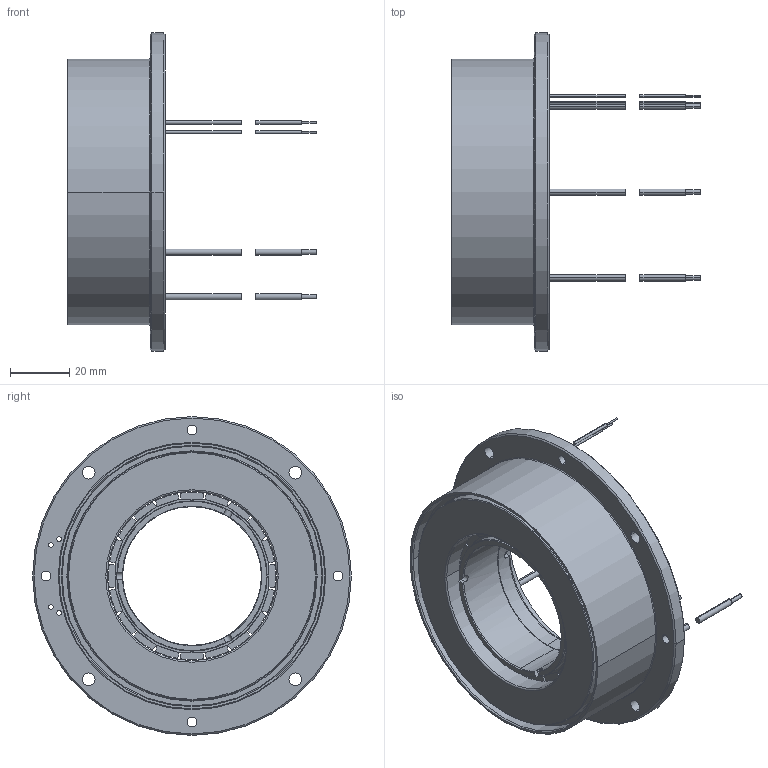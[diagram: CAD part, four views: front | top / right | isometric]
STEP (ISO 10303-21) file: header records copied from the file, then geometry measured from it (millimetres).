
FILE_DESCRIPTION((''),'2;1');
FILE_NAME('MASSBILD_STANDARDROTO_SW0001','2022-11-15T14:53:24',('MMAGVISI'),(''),'CREO PARAMETRIC BY PTC INC, 2020342','CREO PARAMETRIC BY PTC INC, 2020342','');
FILE_SCHEMA(('CONFIG_CONTROL_DESIGN','SHAPE_APPEARANCE_LAYERS_GROUPS'));
Length unit declared in the file: millimetre
Products named in the file (1): MASSBILD_STANDARDROTO_SW0001
Bounding box: 84.24 x 108 x 108 mm (x, y, z)
Volume: 141378.3 mm3; surface area: 46100.1 mm2
Topology: 27 solids, 27 shells, 413 faces, 954 edges, 610 vertices
Faces by surface type: plane 224, cylinder 99, torus 70, cone 20
Entity records: 15531 total; most frequent: CARTESIAN_POINT 3309, ORIENTED_EDGE 1908, DIRECTION 1746, PRESENTATION_STYLE_ASSIGNMENT 981, STYLED_ITEM 981, CURVE_STYLE 954, EDGE_CURVE 954, AXIS2_PLACEMENT_3D 651
